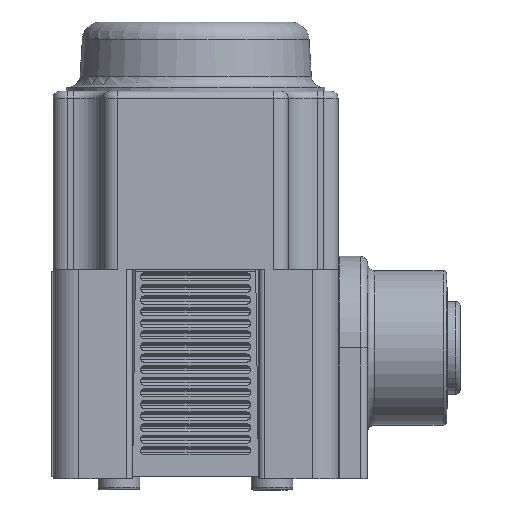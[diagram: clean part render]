
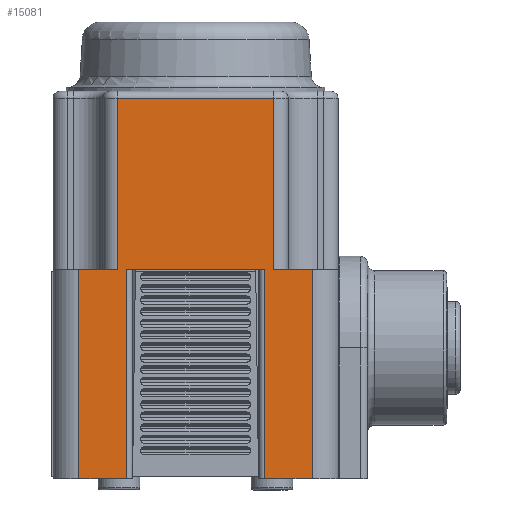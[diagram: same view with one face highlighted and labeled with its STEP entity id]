
A CAD part, left-side view. The second image highlights one B-rep face of the part: STEP entity #15081.
In plain terms, the highlighted planar face has unit normal (-1, 0, 0).
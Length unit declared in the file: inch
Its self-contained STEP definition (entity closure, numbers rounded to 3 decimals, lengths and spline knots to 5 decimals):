
#882=PLANE('',#16619);
#1675=FACE_OUTER_BOUND('',#2584,.T.);
#2584=EDGE_LOOP('',(#13032,#13033,#13034,#13035,#13036,#13037,#13038,#13039,
#13040,#13041,#13042,#13043));
#4317=LINE('',#27371,#5296);
#4330=LINE('',#27441,#5309);
#4446=LINE('',#29014,#5425);
#4463=LINE('',#29073,#5442);
#4464=LINE('',#29077,#5443);
#4467=LINE('',#29096,#5446);
#4480=LINE('',#29172,#5459);
#4481=LINE('',#29176,#5460);
#4482=LINE('',#29177,#5461);
#4483=LINE('',#29179,#5462);
#4484=LINE('',#29181,#5463);
#4485=LINE('',#29182,#5464);
#5296=VECTOR('',#20019,0.3937);
#5309=VECTOR('',#20102,0.3937);
#5425=VECTOR('',#20412,0.3937);
#5442=VECTOR('',#20483,0.3937);
#5443=VECTOR('',#20488,0.3937);
#5446=VECTOR('',#20509,0.3937);
#5459=VECTOR('',#20610,0.3937);
#5460=VECTOR('',#20615,0.3937);
#5461=VECTOR('',#20616,0.3937);
#5462=VECTOR('',#20617,0.3937);
#5463=VECTOR('',#20618,0.3937);
#5464=VECTOR('',#20619,0.3937);
#6657=VERTEX_POINT('',#27363);
#6659=VERTEX_POINT('',#27369);
#6681=VERTEX_POINT('',#27439);
#6811=VERTEX_POINT('',#29011);
#6812=VERTEX_POINT('',#29013);
#6827=VERTEX_POINT('',#29072);
#6828=VERTEX_POINT('',#29076);
#6835=VERTEX_POINT('',#29094);
#6854=VERTEX_POINT('',#29171);
#6855=VERTEX_POINT('',#29175);
#6856=VERTEX_POINT('',#29178);
#6857=VERTEX_POINT('',#29180);
#8632=EDGE_CURVE('',#6659,#6657,#4317,.T.);
#8668=EDGE_CURVE('',#6681,#6659,#4330,.T.);
#8870=EDGE_CURVE('',#6812,#6811,#4446,.T.);
#8899=EDGE_CURVE('',#6827,#6657,#4463,.T.);
#8901=EDGE_CURVE('',#6828,#6827,#4464,.T.);
#8911=EDGE_CURVE('',#6681,#6835,#4467,.T.);
#8949=EDGE_CURVE('',#6854,#6812,#4480,.T.);
#8951=EDGE_CURVE('',#6855,#6835,#4481,.T.);
#8952=EDGE_CURVE('',#6854,#6855,#4482,.T.);
#8953=EDGE_CURVE('',#6856,#6811,#4483,.T.);
#8954=EDGE_CURVE('',#6856,#6857,#4484,.T.);
#8955=EDGE_CURVE('',#6857,#6828,#4485,.T.);
#13032=ORIENTED_EDGE('',*,*,#8632,.F.);
#13033=ORIENTED_EDGE('',*,*,#8668,.F.);
#13034=ORIENTED_EDGE('',*,*,#8911,.T.);
#13035=ORIENTED_EDGE('',*,*,#8951,.F.);
#13036=ORIENTED_EDGE('',*,*,#8952,.F.);
#13037=ORIENTED_EDGE('',*,*,#8949,.T.);
#13038=ORIENTED_EDGE('',*,*,#8870,.T.);
#13039=ORIENTED_EDGE('',*,*,#8953,.F.);
#13040=ORIENTED_EDGE('',*,*,#8954,.T.);
#13041=ORIENTED_EDGE('',*,*,#8955,.T.);
#13042=ORIENTED_EDGE('',*,*,#8901,.T.);
#13043=ORIENTED_EDGE('',*,*,#8899,.T.);
#15081=ADVANCED_FACE('',(#1675),#882,.T.);
#16619=AXIS2_PLACEMENT_3D('',#29174,#20613,#20614);
#20019=DIRECTION('',(0.,-1.,0.));
#20102=DIRECTION('',(0.,0.,1.));
#20412=DIRECTION('',(0.,-1.,0.));
#20483=DIRECTION('',(0.,0.,1.));
#20488=DIRECTION('',(0.,1.,0.));
#20509=DIRECTION('',(0.,1.,0.));
#20610=DIRECTION('',(0.,0.,1.));
#20613=DIRECTION('center_axis',(-1.,0.,0.));
#20614=DIRECTION('ref_axis',(0.,0.,1.));
#20615=DIRECTION('',(0.,0.,1.));
#20616=DIRECTION('',(0.,1.,0.));
#20617=DIRECTION('',(0.,0.,1.));
#20618=DIRECTION('',(0.,-1.,0.));
#20619=DIRECTION('',(0.,0.,1.));
#27363=CARTESIAN_POINT('',(-1.24747,-0.07836,0.6733));
#27369=CARTESIAN_POINT('',(-1.24747,0.58964,0.6733));
#27371=CARTESIAN_POINT('',(-1.24747,0.58964,0.6733));
#27439=CARTESIAN_POINT('',(-1.24747,0.58964,-0.0587));
#27441=CARTESIAN_POINT('',(-1.24747,0.58964,-0.0587));
#29011=CARTESIAN_POINT('',(-1.24747,-0.03836,-0.0587));
#29013=CARTESIAN_POINT('',(-1.24747,0.54964,-0.0587));
#29014=CARTESIAN_POINT('',(-1.24747,0.54964,-0.0587));
#29072=CARTESIAN_POINT('',(-1.24747,-0.07836,-0.0587));
#29073=CARTESIAN_POINT('',(-1.24747,-0.07836,-0.0587));
#29076=CARTESIAN_POINT('',(-1.24747,-0.24336,-0.0587));
#29077=CARTESIAN_POINT('',(-1.24747,-0.24336,-0.0587));
#29094=CARTESIAN_POINT('',(-1.24747,0.75464,-0.0587));
#29096=CARTESIAN_POINT('',(-1.24747,0.58964,-0.0587));
#29171=CARTESIAN_POINT('',(-1.24747,0.54964,-0.9527));
#29172=CARTESIAN_POINT('',(-1.24747,0.54964,-0.9527));
#29174=CARTESIAN_POINT('Origin',(-1.24747,-0.24376,-0.1397));
#29175=CARTESIAN_POINT('',(-1.24747,0.75464,-0.9527));
#29176=CARTESIAN_POINT('',(-1.24747,0.75464,-0.9527));
#29177=CARTESIAN_POINT('',(-1.24747,0.54964,-0.9527));
#29178=CARTESIAN_POINT('',(-1.24747,-0.03836,-0.9527));
#29179=CARTESIAN_POINT('',(-1.24747,-0.03836,-0.9527));
#29180=CARTESIAN_POINT('',(-1.24747,-0.24336,-0.9527));
#29181=CARTESIAN_POINT('',(-1.24747,-0.03836,-0.9527));
#29182=CARTESIAN_POINT('',(-1.24747,-0.24336,-0.9527));
